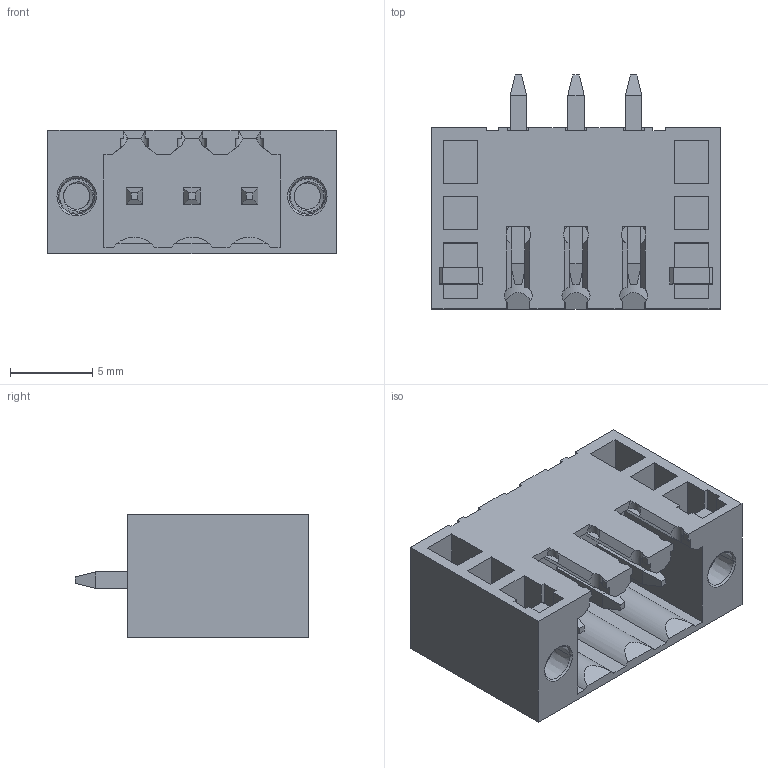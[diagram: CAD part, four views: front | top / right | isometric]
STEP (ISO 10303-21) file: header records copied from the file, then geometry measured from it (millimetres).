
FILE_DESCRIPTION((''),'2;1');
FILE_NAME('EL0315X20000G','2019-05-27T',('zhenbing.lai'),(''),'CREO PARAMETRIC BY PTC INC, 2016260','CREO PARAMETRIC BY PTC INC, 2016260','');
FILE_SCHEMA(('CONFIG_CONTROL_DESIGN'));
Length unit declared in the file: millimetre
Products named in the file (1): EL0315X20000G
Bounding box: 17.5 x 14.2 x 7.5 mm (x, y, z)
Volume: 803.4 mm3; surface area: 1593.2 mm2
Topology: 1 solids, 1 shells, 331 faces, 917 edges, 598 vertices
Faces by surface type: plane 280, cylinder 31, cone 12, bspline 8
Entity records: 11951 total; most frequent: CARTESIAN_POINT 3561, ORIENTED_EDGE 1834, DIRECTION 1551, EDGE_CURVE 917, VECTOR 759, LINE 759, VERTEX_POINT 598, AXIS2_PLACEMENT_3D 396
